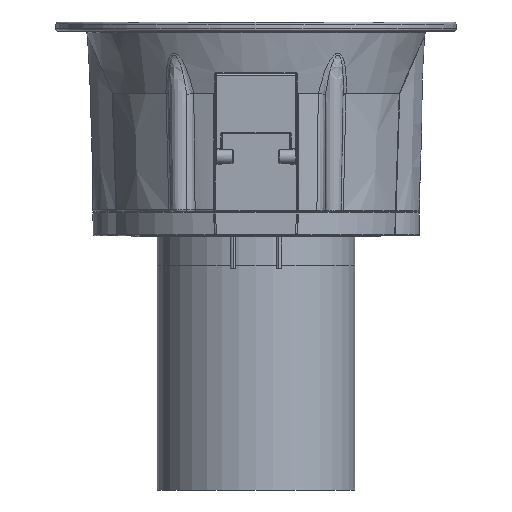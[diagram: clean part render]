
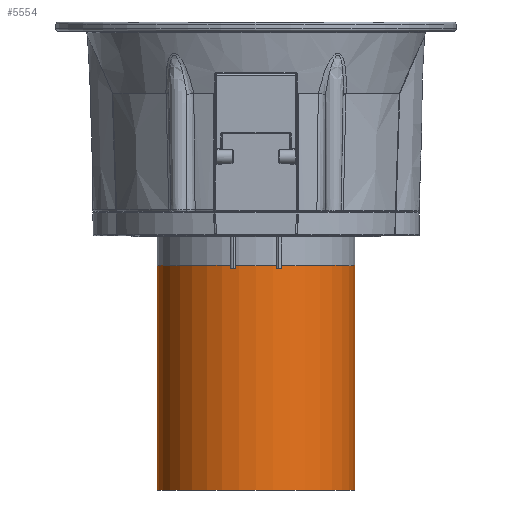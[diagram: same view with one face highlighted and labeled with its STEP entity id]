
A CAD part, front view. The second image highlights one B-rep face of the part: STEP entity #5554.
In plain terms, the highlighted cylindrical face has radius 21.5 mm (diameter 43 mm), a partial arc.
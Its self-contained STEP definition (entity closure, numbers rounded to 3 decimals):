
#5484=CARTESIAN_POINT('',(0.,0.,-75.529));
#5485=DIRECTION('',(0.,0.,-1.));
#5486=DIRECTION('',(1.,0.,0.));
#5487=AXIS2_PLACEMENT_3D('',#5484,#5485,#5486);
#5494=DIRECTION('',(0.,0.,-1.));
#5495=VECTOR('',#5494,48.9);
#5496=CARTESIAN_POINT('',(-21.5,0.,-26.629));
#5497=LINE('',#5496,#5495);
#5498=CARTESIAN_POINT('',(0.,0.,-26.629));
#5499=DIRECTION('',(0.,0.,1.));
#5500=DIRECTION('',(-1.,0.,0.));
#5501=AXIS2_PLACEMENT_3D('',#5498,#5499,#5500);
#5503=DIRECTION('',(0.,0.,-1.));
#5504=VECTOR('',#5503,48.9);
#5505=CARTESIAN_POINT('',(21.5,0.,-26.629));
#5506=LINE('',#5505,#5504);
#5507=CARTESIAN_POINT('',(-21.5,0.,-75.529));
#5508=CARTESIAN_POINT('',(21.5,0.,-75.529));
#5509=VERTEX_POINT('',#5507);
#5510=VERTEX_POINT('',#5508);
#5511=CARTESIAN_POINT('',(21.5,0.,-26.629));
#5512=CARTESIAN_POINT('',(-21.5,0.,-26.629));
#5513=VERTEX_POINT('',#5511);
#5514=VERTEX_POINT('',#5512);
#5542=CARTESIAN_POINT('',(0.,0.,-16.529));
#5543=DIRECTION('',(0.,0.,-1.));
#5544=DIRECTION('',(-1.,0.,0.));
#5545=AXIS2_PLACEMENT_3D('',#5542,#5543,#5544);
#5546=CYLINDRICAL_SURFACE('',#5545,21.5);
#5548=ORIENTED_EDGE('',*,*,#5547,.T.);
#5549=ORIENTED_EDGE('',*,*,#5537,.T.);
#5550=ORIENTED_EDGE('',*,*,#5522,.T.);
#5551=ORIENTED_EDGE('',*,*,#5534,.F.);
#5552=EDGE_LOOP('',(#5548,#5549,#5550,#5551));
#5553=FACE_OUTER_BOUND('',#5552,.F.);
#5554=ADVANCED_FACE('',(#5553),#5546,.T.);
#5488=CIRCLE('',#5487,21.5);
#5502=CIRCLE('',#5501,21.5);
#5522=EDGE_CURVE('',#5510,#5509,#5488,.T.);
#5534=EDGE_CURVE('',#5514,#5509,#5497,.T.);
#5537=EDGE_CURVE('',#5513,#5510,#5506,.T.);
#5547=EDGE_CURVE('',#5514,#5513,#5502,.T.);
